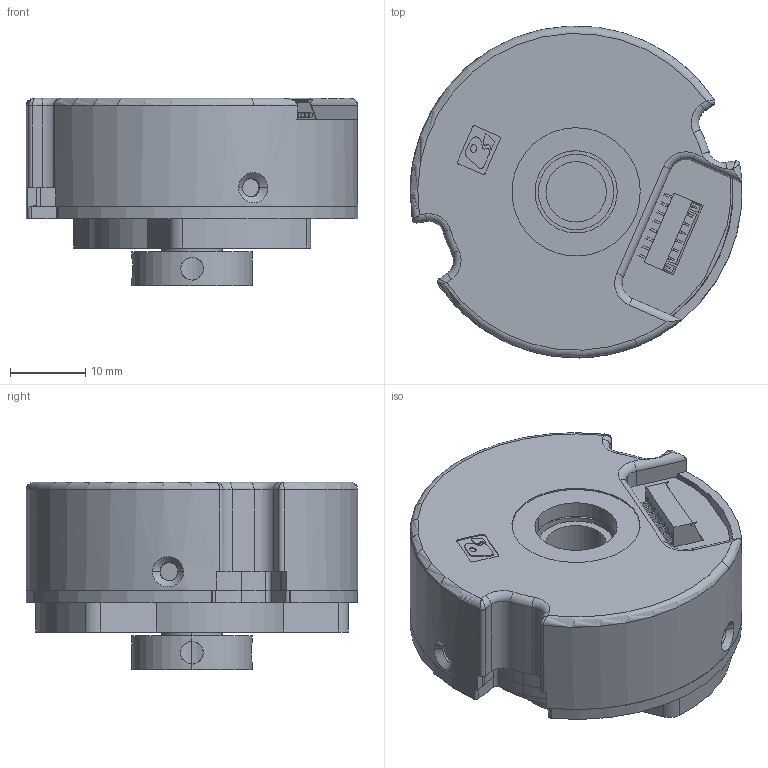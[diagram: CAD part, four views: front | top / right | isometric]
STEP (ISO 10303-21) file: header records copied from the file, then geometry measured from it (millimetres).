
FILE_DESCRIPTION (( 'STEP AP214' ), '1' );
FILE_NAME ('×°ÅäÌå1.STEP', '2024-07-26T06:26:58', ( 'dell' ), ( '' ), 'SwSTEP 2.0', 'SolidWorks 2021', '' );
FILE_SCHEMA (( 'AUTOMOTIVE_DESIGN' ));
Length unit declared in the file: millimetre
Products named in the file (1): 蚾饜极1
Bounding box: 43.97 x 43.98 x 24.85 mm (x, y, z)
Surface area: 12421.6 mm2 (no closed solid volume)
Topology: 0 solids, 8 shells, 369 faces, 1404 edges, 1001 vertices
Faces by surface type: plane 173, cylinder 99, bspline 81, torus 12, cone 4
Entity records: 22420 total; most frequent: CARTESIAN_POINT 7322, ORIENTED_EDGE 2226, DIRECTION 2065, EDGE_CURVE 1400, VERTEX_POINT 1001, VECTOR 709, LINE 709, AXIS2_PLACEMENT_3D 678
